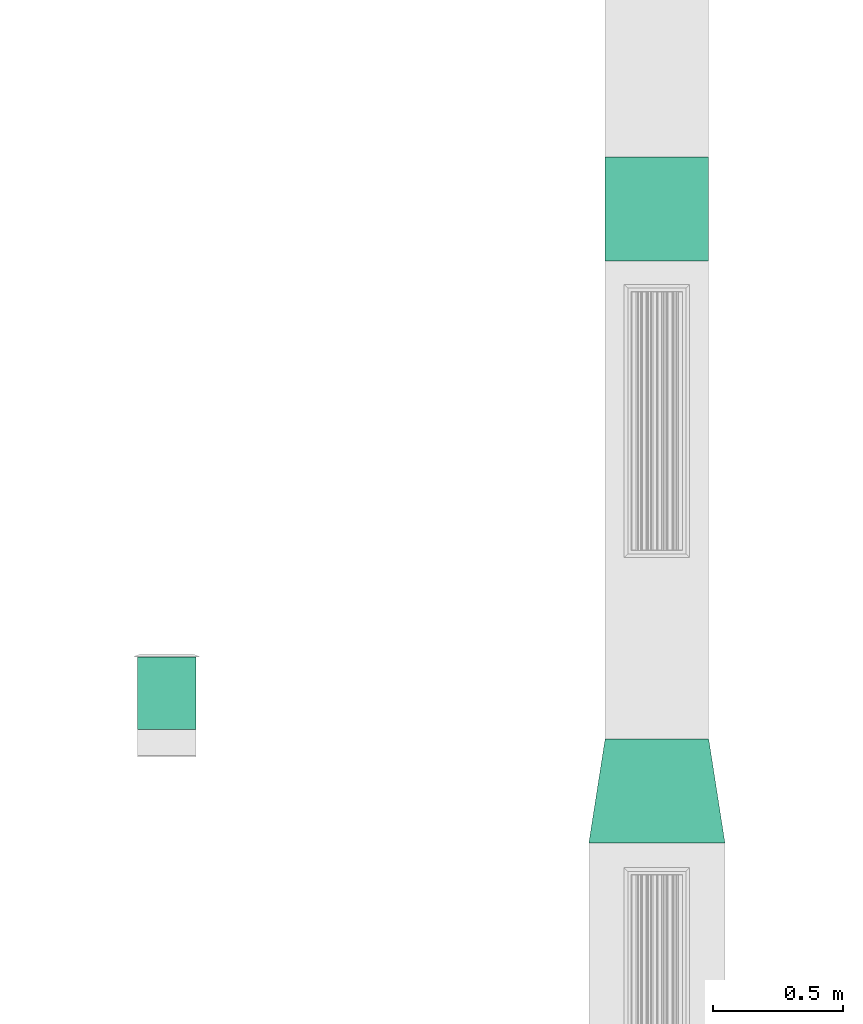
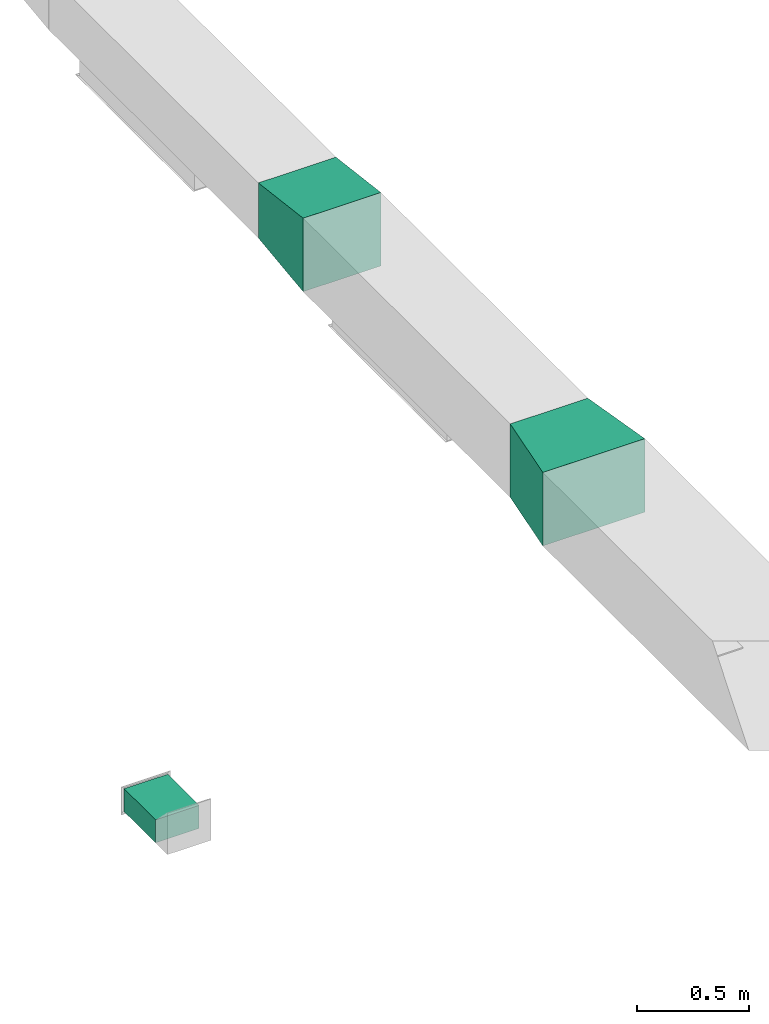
# One storey, part 30 of 60: 2 flow fittings, 1 flow segment.
"""IFC2X3 building model written with IfcOpenShell, lengths in millimetres."""

import ifcopenshell
import ifcopenshell.guid

model = None  # the IFC model being written
_history = None  # IfcOwnerHistory: only IFC2X3 demands one
_inside = {}  # id of a spatial element -> (the spatial element, [elements in it])
_under = {}  # id of a project, library or spatial element -> (it, [spatial elements below it])
_declared = {}  # id of a project -> (the project, [libraries it declares])
_typed = {}  # id of a type object -> (the type object, [elements of that type])
_made_of = {}  # id of a material, layer set ... -> (it, [elements and type objects made of it])


def new_model(schema):
    """Start an empty IFC model of exactly this schema.

    Asked for "IFC4X3", IfcOpenShell would pick the latest addendum, in which some entities
    have other attributes; the version numbers below select the first issue.
    IFC2X3 requires an IfcOwnerHistory on every rooted entity: one is made here for all.
    """
    global model, _history
    if schema == "IFC4X3":
        model = ifcopenshell.file(schema_version=(4, 3, 0, 0))
    else:
        model = ifcopenshell.file(schema=schema)
    _inside.clear()
    _under.clear()
    _declared.clear()
    _typed.clear()
    _made_of.clear()
    _history = None
    if model.schema == "IFC2X3":
        org = make("IfcOrganization", Name="unknown")
        user = make(
            "IfcPersonAndOrganization",
            ThePerson=make("IfcPerson", FamilyName="unknown"),
            TheOrganization=org,
        )
        app = make(
            "IfcApplication",
            ApplicationDeveloper=org,
            Version="unknown",
            ApplicationFullName="unknown",
            ApplicationIdentifier="unknown",
        )
        _history = make(
            "IfcOwnerHistory",
            OwningUser=user,
            OwningApplication=app,
            ChangeAction="ADDED",
            CreationDate=0,
        )
    return model


def make(cls, **values):
    """One entity of the class cls with the attributes given. An attribute that is None is left unset."""
    return model.create_entity(
        cls, **{name: value for name, value in values.items() if value is not None}
    )


def entity(cls, *values):
    """Any entity or typed value of the class cls, its attributes in the order of the schema. None: left unset."""
    e = model.create_entity(cls)
    for i, value in enumerate(values):
        if value is not None:
            e[i] = value
    return e


def rooted(cls, **values):
    """An entity with a GlobalId (a new one), such as an element, a storey or a relation."""
    return make(cls, GlobalId=ifcopenshell.guid.new(), OwnerHistory=_history, **values)


def si_unit(unit_type, name, prefix=None):
    """IfcSIUnit, for example si_unit("LENGTHUNIT", "METRE", prefix="MILLI")."""
    return make("IfcSIUnit", UnitType=unit_type, Prefix=prefix, Name=name)


def converted_unit(unit_type, name, factor, base, dimensions=None, offset=None):
    """IfcConversionBasedUnit, such as the inch: factor (a typed value) times the base unit."""
    return make(
        "IfcConversionBasedUnit"
        if offset is None
        else "IfcConversionBasedUnitWithOffset",
        ConversionOffset=offset,
        Dimensions=None
        if dimensions is None
        else entity("IfcDimensionalExponents", *dimensions),
        UnitType=unit_type,
        Name=name,
        ConversionFactor=make(
            "IfcMeasureWithUnit", ValueComponent=factor, UnitComponent=base
        ),
    )


def derived_unit(unit_type, elements):
    """IfcDerivedUnit: a product of units, each with its exponent."""
    return make(
        "IfcDerivedUnit",
        Elements=[
            make("IfcDerivedUnitElement", Unit=unit, Exponent=power)
            for unit, power in elements
        ],
        UnitType=unit_type,
    )


def assignment(units):
    """IfcUnitAssignment: the units of a project."""
    return None if units is None else make("IfcUnitAssignment", Units=units)


def point(xyz):
    """IfcCartesianPoint."""
    return None if xyz is None else make("IfcCartesianPoint", Coordinates=xyz)


def direction(xyz):
    """IfcDirection."""
    return None if xyz is None else make("IfcDirection", DirectionRatios=xyz)


def frame(location, z_axis=None, x_axis=None):
    """IfcAxis2Placement3D, a coordinate frame: its origin and axes. An axis left out is left unset."""
    return make(
        "IfcAxis2Placement3D",
        Location=point(location),
        Axis=direction(z_axis),
        RefDirection=direction(x_axis),
    )


def frame_2d(location, x_axis=None):
    """IfcAxis2Placement2D, a coordinate frame in the plane: its origin and x axis."""
    return make(
        "IfcAxis2Placement2D", Location=point(location), RefDirection=direction(x_axis)
    )


def origin():
    """The frame at (0, 0, 0) with its axes left unset."""
    return frame((0.0, 0.0, 0.0))


def place(relative_to, where):
    """IfcLocalPlacement: puts the frame where relative to a parent placement (None: the world)."""
    return make(
        "IfcLocalPlacement", PlacementRelTo=relative_to, RelativePlacement=where
    )


def context(
    kind, dimensions, precision=None, world=None, true_north=None, identifier=None
):
    """IfcGeometricRepresentationContext, for example the 3D "Model" context."""
    return make(
        "IfcGeometricRepresentationContext",
        ContextIdentifier=identifier,
        ContextType=kind,
        CoordinateSpaceDimension=dimensions,
        Precision=precision,
        WorldCoordinateSystem=world,
        TrueNorth=true_north,
    )


def subcontext(parent, identifier, kind, view, scale=None):
    """IfcGeometricRepresentationSubContext, for example "Body" below "Model"."""
    return make(
        "IfcGeometricRepresentationSubContext",
        ContextIdentifier=identifier,
        ContextType=kind,
        ParentContext=parent,
        TargetScale=scale,
        TargetView=view,
    )


def project(units=None, contexts=None):
    """IfcProject with its units and contexts."""
    return rooted(
        "IfcProject",
        Name="project",
        RepresentationContexts=contexts,
        UnitsInContext=assignment(units),
    )


def spatial(cls, under=None, at=None, **own):
    """A site, building, storey or space (cls), placed at a placement, below another one or the project."""
    s = rooted(cls, ObjectPlacement=at, **own)
    if under is not None:
        _under.setdefault(under.id(), (under, []))[1].append(s)
    return s


def polyline(points):
    """IfcPolyline through the points."""
    return make("IfcPolyline", Points=[point(p) for p in points])


def profile(cls, at=None, kind="AREA", **sizes):
    """A parametric profile (cls). Its sizes go by their IFC names, for example OverallWidth=200.0."""
    return make(cls, ProfileType=kind, Position=at, **sizes)


def rectangle(**sizes):
    """IfcRectangleProfileDef."""
    return profile("IfcRectangleProfileDef", **sizes)


def outline(outer, holes=None, kind="AREA"):
    """IfcArbitraryClosedProfileDef: a profile drawn as a closed curve; with holes, ...WithVoids."""
    if holes is None:
        return make("IfcArbitraryClosedProfileDef", ProfileType=kind, OuterCurve=outer)
    return make(
        "IfcArbitraryProfileDefWithVoids",
        ProfileType=kind,
        OuterCurve=outer,
        InnerCurves=holes,
    )


def extrude(swept, where, along, depth):
    """IfcExtrudedAreaSolid: the profile swept, set in the frame where, extruded along a direction by depth."""
    return make(
        "IfcExtrudedAreaSolid",
        SweptArea=swept,
        Position=where,
        ExtrudedDirection=direction(along),
        Depth=depth,
    )


def shape(context_of_items, identifier, shape_type, items):
    """IfcShapeRepresentation: the items that make up one representation, for example the "Body"."""
    return make(
        "IfcShapeRepresentation",
        ContextOfItems=context_of_items,
        RepresentationIdentifier=identifier,
        RepresentationType=shape_type,
        Items=items,
    )


def source(mapping_origin, context_of_items, identifier, shape_type, items):
    """IfcRepresentationMap: a shape defined once, which mapped items show again and again."""
    return make(
        "IfcRepresentationMap",
        MappingOrigin=mapping_origin,
        MappedRepresentation=shape(context_of_items, identifier, shape_type, items),
    )


def transform(
    local_origin,
    x_axis=None,
    y_axis=None,
    z_axis=None,
    scale=None,
    scale2=None,
    scale3=None,
    uniform=True,
):
    """IfcCartesianTransformationOperator3D, or its non-uniform kind. x_axis, y_axis, z_axis: its Axis1, 2, 3."""
    if uniform:
        return make(
            "IfcCartesianTransformationOperator3D",
            Axis1=direction(x_axis),
            Axis2=direction(y_axis),
            LocalOrigin=point(local_origin),
            Scale=scale,
            Axis3=direction(z_axis),
        )
    return make(
        "IfcCartesianTransformationOperator3DnonUniform",
        Axis1=direction(x_axis),
        Axis2=direction(y_axis),
        LocalOrigin=point(local_origin),
        Scale=scale,
        Axis3=direction(z_axis),
        Scale2=scale2,
        Scale3=scale3,
    )


def mapped(mapping_source, mapping_target):
    """IfcMappedItem: shows the shape of a source again, moved by a transform."""
    return make(
        "IfcMappedItem", MappingSource=mapping_source, MappingTarget=mapping_target
    )


def material(Name=None, Category=None):
    """IfcMaterial."""
    return make("IfcMaterial", Name=Name, Category=Category)


def made_of(thing, what):
    """Note that an element or type object is made of a material, layer set ...; save() writes the relation."""
    if what is not None:
        _made_of.setdefault(what.id(), (what, []))[1].append(thing)
    return thing


def type_object(cls, material=None, **own):
    """A type object (cls), such as IfcWallType, which elements share."""
    return made_of(rooted(cls, **own), material)


def type_shapes(of_type, sources):
    """Give a type object the sources (RepresentationMaps) that its elements show as mapped items."""
    of_type.RepresentationMaps = sources


def element(
    cls,
    number,
    at=None,
    inside=None,
    cuts=None,
    type_object=None,
    material=None,
    context=None,
    identifier="Body",
    shape_type=None,
    held_by="IfcProductDefinitionShape",
    body=None,
    shapes=None,
    **own,
):
    """One element of the class cls, such as IfcWall. Its Tag is "e" and its number.

    at: its placement. inside: the storey or other place that contains it. cuts: it is an
    opening in that element (IfcRelVoidsElement). A single representation is given by context,
    identifier, shape_type and body (its items); several are given by shapes. held_by: the class
    of the entity that holds the representations. save() writes the other relations.
    """
    e = rooted(cls, Tag="e%d" % number, ObjectPlacement=at, **own)
    if body is not None:
        shapes = [shape(context, identifier, shape_type, body)]
    if shapes is not None:
        e.Representation = make(held_by, Representations=shapes)
    if inside is not None:
        _inside.setdefault(inside.id(), (inside, []))[1].append(e)
    if cuts is not None:
        rooted(
            "IfcRelVoidsElement", RelatingBuildingElement=cuts, RelatedOpeningElement=e
        )
    if type_object is not None:
        _typed.setdefault(type_object.id(), (type_object, []))[1].append(e)
    return made_of(e, material)


def aggregate(whole, parts):
    """IfcRelAggregates: a whole, such as a stair, and the parts it consists of."""
    return rooted("IfcRelAggregates", RelatingObject=whole, RelatedObjects=parts)


def save(model, path):
    """Write the relations noted so far, then the file.

    IfcRelAggregates (storeys below a building ...), IfcRelContainedInSpatialStructure (elements
    in a storey), IfcRelDefinesByType, IfcRelAssociatesMaterial and IfcRelDeclares: one each for
    every whole, place, type object, material and project.
    """
    for whole, parts in _under.values():
        aggregate(whole, parts)
    for where, things in _inside.values():
        rooted(
            "IfcRelContainedInSpatialStructure",
            RelatedElements=things,
            RelatingStructure=where,
        )
    for kind, things in _typed.values():
        rooted("IfcRelDefinesByType", RelatedObjects=things, RelatingType=kind)
    for what, things in _made_of.values():
        rooted("IfcRelAssociatesMaterial", RelatedObjects=things, RelatingMaterial=what)
    for by, libraries in _declared.values():
        rooted("IfcRelDeclares", RelatingContext=by, RelatedDefinitions=libraries)
    model.write(path)


model = new_model("IFC2X3")

# Units and contexts
model_context = context("Model", 3, precision=0.01, world=origin(), true_north=direction((6.123233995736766e-17, 1.0)))
body_context = subcontext(model_context, "Body", "Model", "MODEL_VIEW")
ifc_project = project(units=[si_unit("LENGTHUNIT", "METRE", prefix="MILLI"), converted_unit("PLANEANGLEUNIT", "DEGREE", entity("IfcPlaneAngleMeasure", 0.017453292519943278), si_unit("PLANEANGLEUNIT", "RADIAN"), dimensions=[0, 0, 0, 0, 0, 0, 0]), si_unit("AREAUNIT", "SQUARE_METRE"), derived_unit("THERMALTRANSMITTANCEUNIT", [(si_unit("MASSUNIT", "GRAM", prefix="KILO"), 1), (si_unit("THERMODYNAMICTEMPERATUREUNIT", "KELVIN"), -1), (si_unit("TIMEUNIT", "SECOND"), -3)])], contexts=[model_context])

# Site, building, storey
site_placement = place(None, origin())
site = spatial("IfcSite", under=ifc_project, at=site_placement, Name="Default", CompositionType="ELEMENT")
building_placement = place(site_placement, origin())
building = spatial("IfcBuilding", under=site, at=building_placement, Name="Praça Pedro II, 1301 - Centro (Sul), Teresina - PI, 64001-100", CompositionType="ELEMENT")
storey_placement = place(building_placement, frame((0.0, 0.0, 6040.0)))
storey = spatial("IfcBuildingStorey", under=building, at=storey_placement, Name="2PAV", CompositionType="ELEMENT", Elevation=6040.0)

# Flow segment
duct_segment_type = type_object("IfcDuctSegmentType", Name="Duto retangular:Raios cotovelos / torneiras", PredefinedType="NOTDEFINED")
flow_segment_placement = place(storey_placement, origin())
element("IfcFlowSegment", 1, at=flow_segment_placement, inside=storey, type_object=duct_segment_type, Name="Duto retangular:Raios cotovelos / torneiras", ObjectType="Duto retangular:Raios cotovelos / torneiras", context=body_context, shape_type="SweptSolid", body=[
    extrude(rectangle(XDim=279.90061194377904, YDim=225.00000000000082, at=frame_2d((-4.334310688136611e-12, 0.0), x_axis=(1.0, 0.0))), frame((33786.88553093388, -57870.89193752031, 1978.5000001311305), z_axis=(0.0, 0.0, 1.0), x_axis=(0.0, -1.0, 0.0)), (0.0, 0.0, 1.0), 124.99999999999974),
])

# Flow fittings
ifc_material = material(Name="<Unnamed>")
duct_fitting_type_1 = type_object("IfcDuctFittingType", Name="M_Rectangular Transition - L:400 mm (L)", PredefinedType="NOTDEFINED", material=ifc_material)
shared_shape_1 = source(origin(), body_context, "Body", "SweptSolid", [
    extrude(outline(polyline([(-179.85036515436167, -173.64862842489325), (223.26252226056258, -173.64862842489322), (173.64862842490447, 223.26252226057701), (-217.06078553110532, 124.03473458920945), (-179.85036515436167, -173.64862842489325)])), frame((200.0, -200.0, 0.0), z_axis=(0.0, 1.0, 0.0), x_axis=(0.9922778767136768, 0.0, 0.12403473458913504)), (0.0, 0.0, 1.0), 400.0),
])
type_shapes(duct_fitting_type_1, [shared_shape_1])
flow_fitting_1_placement = place(storey_placement, frame((35678.62107154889, -55802.36010789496, 3450.0), z_axis=(0.0, 0.0, 1.0), x_axis=(0.0, -1.0, 0.0)))
element("IfcFlowFitting", 2, at=flow_fitting_1_placement, inside=storey, type_object=duct_fitting_type_1, material=ifc_material, Name="M_Rectangular Transition - L:400 mm (L)", ObjectType="M_Rectangular Transition - L:400 mm (L)", context=body_context, shape_type="MappedRepresentation", body=[
    mapped(shared_shape_1, transform((0.0, 0.0, 0.0), scale=1.0)),
])
duct_fitting_type_2 = type_object("IfcDuctFittingType", Name="M_Rectangular Transition - L:400 mm (L)", PredefinedType="NOTDEFINED", material=ifc_material)
shared_shape_2 = source(origin(), body_context, "Body", "SweptSolid", [
    extrude(outline(polyline([(-166.72703069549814, -228.4777828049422), (238.12633782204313, -228.47778280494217), (157.07847567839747, 290.228534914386), (-228.4777828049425, 166.72703069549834), (-166.72703069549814, -228.4777828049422)])), frame((200.0, 0.0, -200.0), z_axis=(0.0, 0.0, 1.0), x_axis=(0.9880120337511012, -0.15437688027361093, 0.0)), (0.0, 0.0, 1.0), 400.0),
])
type_shapes(duct_fitting_type_2, [shared_shape_2])
flow_fitting_2_placement = place(storey_placement, frame((35678.621071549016, -58048.27549998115, 3450.0), z_axis=(0.0, 0.0, 1.0), x_axis=(0.0, -1.0, 0.0)))
element("IfcFlowFitting", 3, at=flow_fitting_2_placement, inside=storey, type_object=duct_fitting_type_2, material=ifc_material, Name="M_Rectangular Transition - L:400 mm (L)", ObjectType="M_Rectangular Transition - L:400 mm (L)", context=body_context, shape_type="MappedRepresentation", body=[
    mapped(shared_shape_2, transform((0.0, 0.0, 0.0), scale=1.0)),
])

save(model, "model.ifc")
